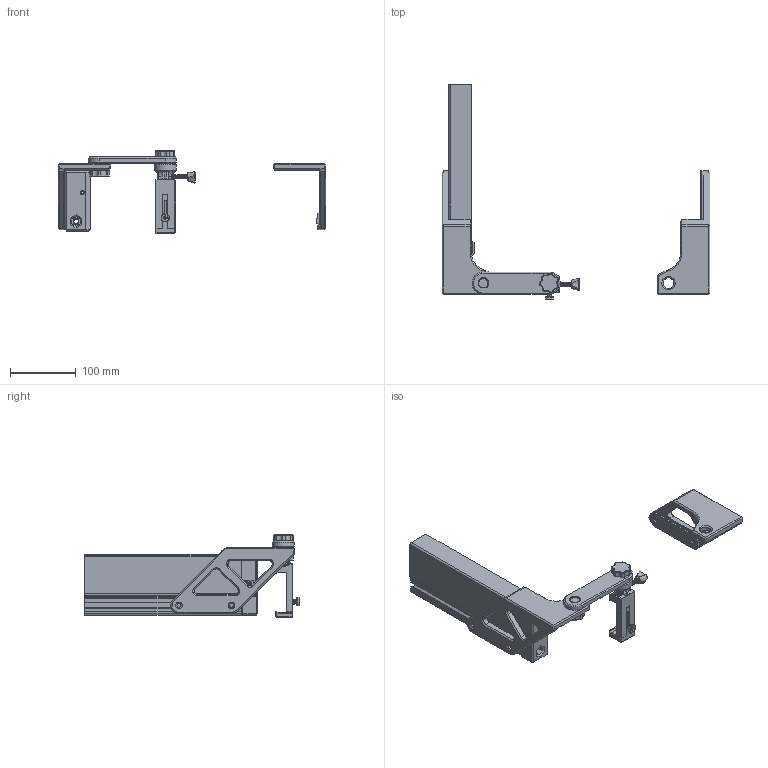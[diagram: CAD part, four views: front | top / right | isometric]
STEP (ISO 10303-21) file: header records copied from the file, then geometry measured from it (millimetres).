
FILE_DESCRIPTION(/* description */ (''),/* implementation_level */ '2;1');
FILE_NAME(/* name */ 'SUPPORTO CELL PER PRUSA XL v13.step',/* time_stamp */ '2023-09-27T22:13:20+02:00',/* author */ (''),/* organization */ (''),/* preprocessor_version */ 'ST-DEVELOPER v20',/* originating_system */ 'Autodesk Translation Framework v12.14.0.127',/* authorisation */ '');
FILE_SCHEMA (('AUTOMOTIVE_DESIGN { 1 0 10303 214 3 1 1 }'));
Products named in the file (5): SUPPORTO CELL PER PRUSA XL; VITE FISSAGGIO; 91280A244_Medium-Strength Class 8.8 Steel Hex Head Screw; 92095A184_Button Head Hex Drive Screw; 5537T743_T-Slotted Framing
Assembly tree (4 placements, depth 3):
  SUPPORTO CELL PER PRUSA XL
    VITE FISSAGGIO
      91280A244_Medium-Strength Class 8.8 Steel Hex Head Screw
    92095A184_Button Head Hex Drive Screw
    5537T743_T-Slotted Framing
Bounding box: 407.5 x 326.53 x 126.56 mm (x, y, z)
Volume: 558553.1 mm3; surface area: 262272.5 mm2
Topology: 16 solids, 16 shells, 1177 faces, 3082 edges, 1956 vertices
Faces by surface type: plane 530, cylinder 425, cone 151, bspline 68, torus 2, sphere 1
Full cylindrical faces by diameter (mm): 2.35 x30, 3 x32, 3.2 x2, 3.4 x1, 3.5 x1, 3.961 x54, 5 x55, 5.2 x5, 5.3 x1, 5.7 x1, 5.8 x1, 6 x1, 6.2 x4, 7.06 x1, 7.229 x1, 8.5 x1, 10.6 x1, 13.534 x14, 14.422 x4, 14.623 x4, 15.822 x16, 16.3 x3, 16.65 x4, 16.651 x4, 34 x1
Entity records: 60278 total; most frequent: CARTESIAN_POINT 32547, ORIENTED_EDGE 6154, DIRECTION 5148, EDGE_CURVE 3077, VERTEX_POINT 1956, AXIS2_PLACEMENT_3D 1721, LINE 1706, VECTOR 1706
